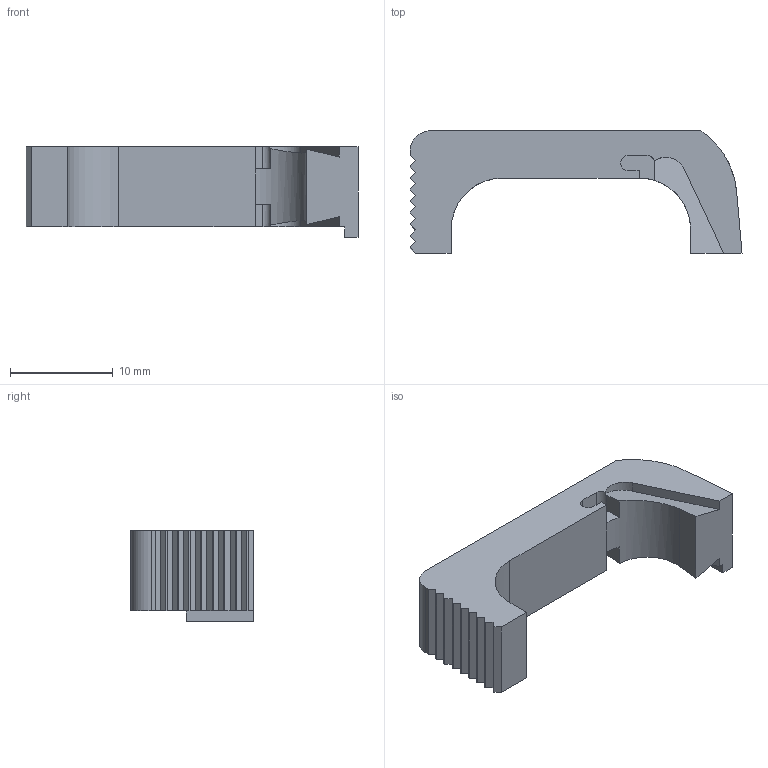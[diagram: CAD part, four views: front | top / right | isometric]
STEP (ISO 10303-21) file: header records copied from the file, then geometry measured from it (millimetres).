
FILE_DESCRIPTION(/* description */ (''),/* implementation_level */ '2;1');
FILE_NAME(/* name */ 'Gen4 Mag Catch Extended 2mm.step',/* time_stamp */ '2026-02-20T19:06:19-06:00',/* author */ (''),/* organization */ (''),/* preprocessor_version */ 'ST-DEVELOPER v20.1',/* originating_system */ 'Autodesk Translation Framework v14.24.0.0',/* authorisation */ '');
FILE_SCHEMA (('AUTOMOTIVE_DESIGN { 1 0 10303 214 3 1 1 }'));
Length unit declared in the file: millimetre
Products named in the file (1): Gen4 Mag Release
Bounding box: 32.3 x 11.9 x 8.8 mm (x, y, z)
Volume: 1595 mm3; surface area: 1244.4 mm2
Topology: 1 solids, 1 shells, 62 faces, 178 edges, 118 vertices
Faces by surface type: plane 52, cylinder 10
Entity records: 2051 total; most frequent: CARTESIAN_POINT 359, ORIENTED_EDGE 356, DIRECTION 329, EDGE_CURVE 178, LINE 153, VECTOR 153, VERTEX_POINT 118, AXIS2_PLACEMENT_3D 88
